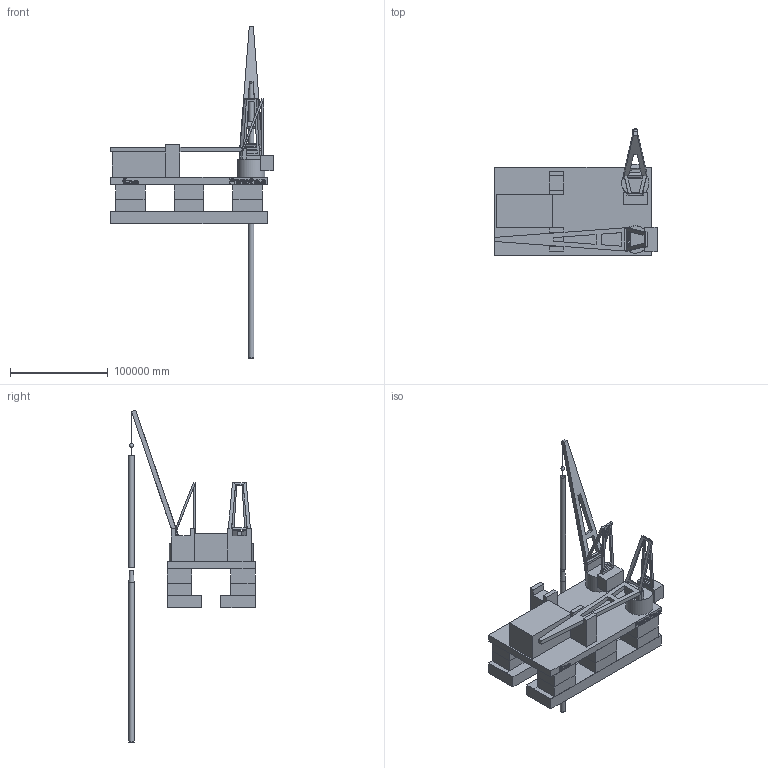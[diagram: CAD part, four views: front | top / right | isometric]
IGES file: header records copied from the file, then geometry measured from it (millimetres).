
Global section: file name: C:\Users\dfidalgodoming\OneDrive - Delft University of Technology\Engineering\TUD\PhD\Documents\MyPapers\Papaer1-Model\PrometheusSSCV\PrometheusSSCV_v1_230731.igs; native system: Rhinoceros ( Jul 27 2022 ); preprocessor: Trout Lake IGES 012 Jul 27 2022; date: 230731.124025; units: metre
Bounding box: 166193.79 x 129464.3 x 339889.36 mm (x, y, z)
Surface area: 125528902593 mm2 (no closed solid volume)
Topology: 0 solids, 0 shells, 260 faces, 1842 edges, 1832 vertices
Faces by surface type: bspline 260
